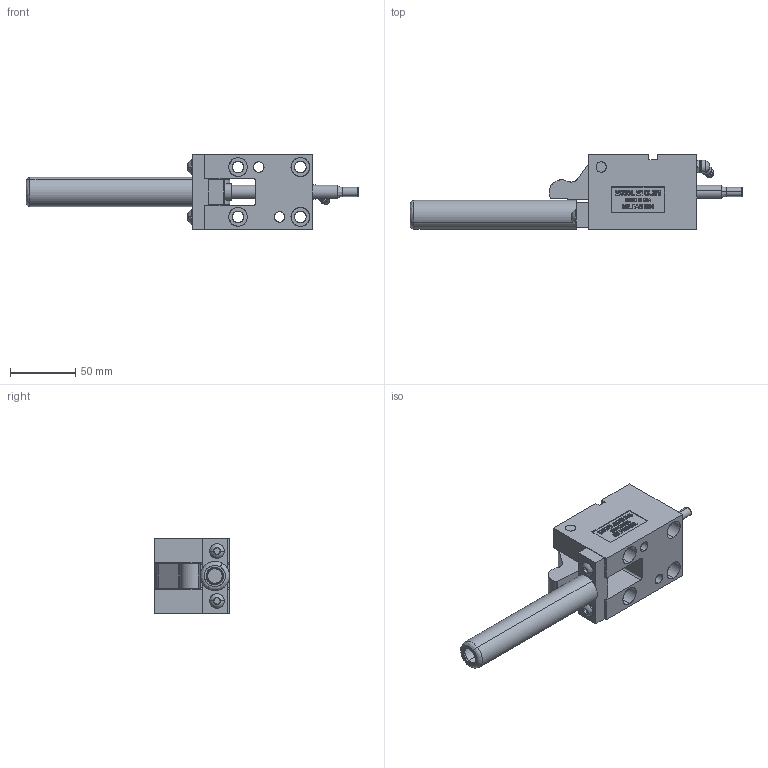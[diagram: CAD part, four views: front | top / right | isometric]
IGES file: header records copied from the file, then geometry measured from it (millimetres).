
Start section: SolidWorks IGES file using analytic representation for surfaces
Global section: file name: Y:\METRIC With OFFSETRIGGER\TOPMOUNT\MTOL37545\CLOSED\MTOL37545-C.IGS; native system: SolidWorks 2006 by SolidWorks Corporation; preprocessor: SolidWorks 2006 by SolidWorks Corporation; author: Jim; date: 090120.175434; units: inch
Bounding box: 253.59 x 57.15 x 57.15 mm (x, y, z)
Surface area: 74946.4 mm2 (no closed solid volume)
Topology: 0 solids, 0 shells, 602 faces, 7237 edges, 7233 vertices
Faces by surface type: bspline 478, revolution 124
